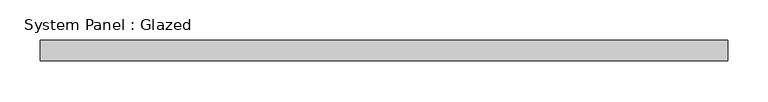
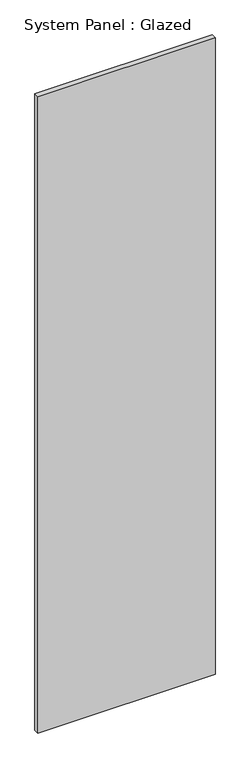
"""IFC4 building model written with IfcOpenShell, lengths in millimetres: plate geometry, System Panel : Glazed."""

from ifc_helpers import new_model, si_unit, origin, origin_with_axes, place, context, project, spatial, polyline, outline, extrude, source, transform, mapped, element, save


def system_panel_glazed_22d07e78(model_context):
    return source(origin(), model_context, "Body", "SweptSolid", [
        extrude(outline(polyline([(425.0, 24.5), (-425.0, 24.5), (-425.0, 49.5), (425.0, 49.5), (425.0, 24.5)])), origin_with_axes(), (0.0, 0.0, 1.0), 3230.0),
    ])


if __name__ == "__main__":
    model = new_model("IFC4")
    model_context = context("Model", 3, world=origin())
    ifc_project = project(units=[si_unit("LENGTHUNIT", "METRE", prefix="MILLI")], contexts=[model_context])
    site = spatial("IfcSite", under=ifc_project)
    building = spatial("IfcBuilding", under=site)
    placement = place(None, origin())
    system_panel_glazed_shape = system_panel_glazed_22d07e78(model_context)
    element("IfcPlate", 1, ObjectType="System Panel : Glazed", at=placement, inside=building, context=model_context, shape_type="MappedRepresentation", body=[
        mapped(system_panel_glazed_shape, transform((0.0, 0.0, 0.0), x_axis=(1.0, 0.0, 0.0), y_axis=(0.0, 1.0, 0.0), z_axis=(0.0, 0.0, 1.0))),
    ])
    save(model, "model.ifc")
